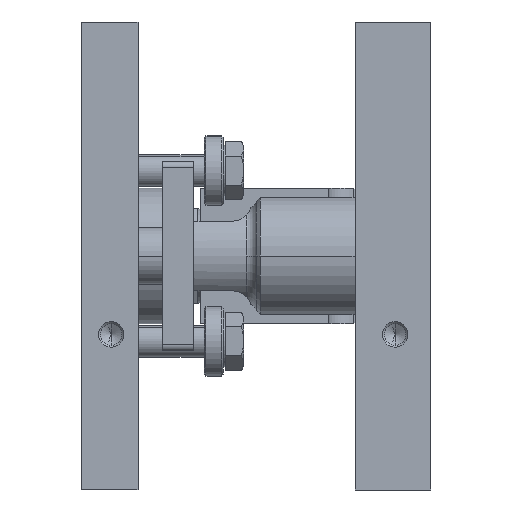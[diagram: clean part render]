
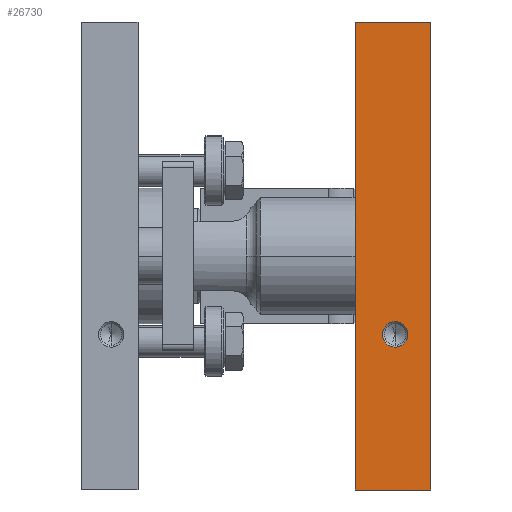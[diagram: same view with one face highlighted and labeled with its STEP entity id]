
A CAD part, left-side view. The second image highlights one B-rep face of the part: STEP entity #26730.
In plain terms, the highlighted planar face has unit normal (-1, 0, 0).
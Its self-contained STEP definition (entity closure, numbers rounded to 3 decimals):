
#6177 = ORIENTED_EDGE ( 'NONE', *, *, #317820, .F. ) ;
#12715 = LINE ( 'NONE', #27582, #319515 ) ;
#17572 = ORIENTED_EDGE ( 'NONE', *, *, #180063, .T. ) ;
#18736 = CARTESIAN_POINT ( 'NONE',  ( -127.975, -24., 74. ) ) ;
#25716 = DIRECTION ( 'NONE',  ( -1., 0., 0. ) ) ;
#26730 = ADVANCED_FACE ( 'NONE', ( #110371, #254759 ), #202085, .T. ) ;
#27582 = CARTESIAN_POINT ( 'NONE',  ( -127.975, -24., 74. ) ) ;
#28650 = CARTESIAN_POINT ( 'NONE',  ( -127.975, -12.7, -24.8 ) ) ;
#29432 = CARTESIAN_POINT ( 'NONE',  ( -127.975, -24., -74. ) ) ;
#37216 = CARTESIAN_POINT ( 'NONE',  ( -127.975, -12.7, -24.8 ) ) ;
#44298 = CARTESIAN_POINT ( 'NONE',  ( -127.975, -12.7, -20.775 ) ) ;
#49261 = EDGE_CURVE ( 'NONE', #350979, #74474, #201846, .T. ) ;
#57594 = DIRECTION ( 'NONE',  ( 0., 0., 1. ) ) ;
#66143 = DIRECTION ( 'NONE',  ( 0., 0., 1. ) ) ;
#72095 = VERTEX_POINT ( 'NONE', #44298 ) ;
#72425 = DIRECTION ( 'NONE',  ( 0., 1., 0. ) ) ;
#73896 = EDGE_LOOP ( 'NONE', ( #365723, #6177, #137931, #17572 ) ) ;
#74474 = VERTEX_POINT ( 'NONE', #310983 ) ;
#75896 = EDGE_CURVE ( 'NONE', #194247, #358934, #145836, .T. ) ;
#107911 = CIRCLE ( 'NONE', #208444, 4.025 ) ;
#110371 = FACE_BOUND ( 'NONE', #206852, .T. ) ;
#119247 = CARTESIAN_POINT ( 'NONE',  ( -127.975, -12.7, -28.825 ) ) ;
#122713 = CARTESIAN_POINT ( 'NONE',  ( -127.975, -24., -74. ) ) ;
#132660 = ORIENTED_EDGE ( 'NONE', *, *, #204293, .F. ) ;
#137931 = ORIENTED_EDGE ( 'NONE', *, *, #75896, .T. ) ;
#145836 = LINE ( 'NONE', #122713, #366891 ) ;
#153993 = CARTESIAN_POINT ( 'NONE',  ( -127.975, 0., -74. ) ) ;
#160707 = EDGE_CURVE ( 'NONE', #335485, #72095, #107911, .T. ) ;
#173014 = VECTOR ( 'NONE', #72425, 1000. ) ;
#173763 = DIRECTION ( 'NONE',  ( 0., 1., 0. ) ) ;
#180063 = EDGE_CURVE ( 'NONE', #358934, #74474, #12715, .T. ) ;
#194247 = VERTEX_POINT ( 'NONE', #350560 ) ;
#196215 = CARTESIAN_POINT ( 'NONE',  ( -127.975, 0., -74. ) ) ;
#200944 = ORIENTED_EDGE ( 'NONE', *, *, #160707, .F. ) ;
#201846 = LINE ( 'NONE', #196215, #337237 ) ;
#202085 = PLANE ( 'NONE',  #290457 ) ;
#202817 = AXIS2_PLACEMENT_3D ( 'NONE', #28650, #230375, #57594 ) ;
#203820 = CIRCLE ( 'NONE', #202817, 4.025 ) ;
#204293 = EDGE_CURVE ( 'NONE', #72095, #335485, #203820, .T. ) ;
#206852 = EDGE_LOOP ( 'NONE', ( #132660, #200944 ) ) ;
#208444 = AXIS2_PLACEMENT_3D ( 'NONE', #37216, #238967, #66143 ) ;
#218716 = CARTESIAN_POINT ( 'NONE',  ( -127.975, -24., -74. ) ) ;
#230375 = DIRECTION ( 'NONE',  ( -1., 0., 0. ) ) ;
#236292 = DIRECTION ( 'NONE',  ( 0., 0., 1. ) ) ;
#238967 = DIRECTION ( 'NONE',  ( -1., 0., 0. ) ) ;
#254759 = FACE_OUTER_BOUND ( 'NONE', #73896, .T. ) ;
#255492 = DIRECTION ( 'NONE',  ( 0., 0., 1. ) ) ;
#260159 = DIRECTION ( 'NONE',  ( 0., 0., 1. ) ) ;
#290457 = AXIS2_PLACEMENT_3D ( 'NONE', #29432, #25716, #260159 ) ;
#310983 = CARTESIAN_POINT ( 'NONE',  ( -127.975, 0., 74. ) ) ;
#317444 = LINE ( 'NONE', #218716, #173014 ) ;
#317820 = EDGE_CURVE ( 'NONE', #194247, #350979, #317444, .T. ) ;
#319515 = VECTOR ( 'NONE', #173763, 1000. ) ;
#335485 = VERTEX_POINT ( 'NONE', #119247 ) ;
#337237 = VECTOR ( 'NONE', #255492, 1000. ) ;
#350560 = CARTESIAN_POINT ( 'NONE',  ( -127.975, -24., -74. ) ) ;
#350979 = VERTEX_POINT ( 'NONE', #153993 ) ;
#358934 = VERTEX_POINT ( 'NONE', #18736 ) ;
#365723 = ORIENTED_EDGE ( 'NONE', *, *, #49261, .F. ) ;
#366891 = VECTOR ( 'NONE', #236292, 1000. ) ;
